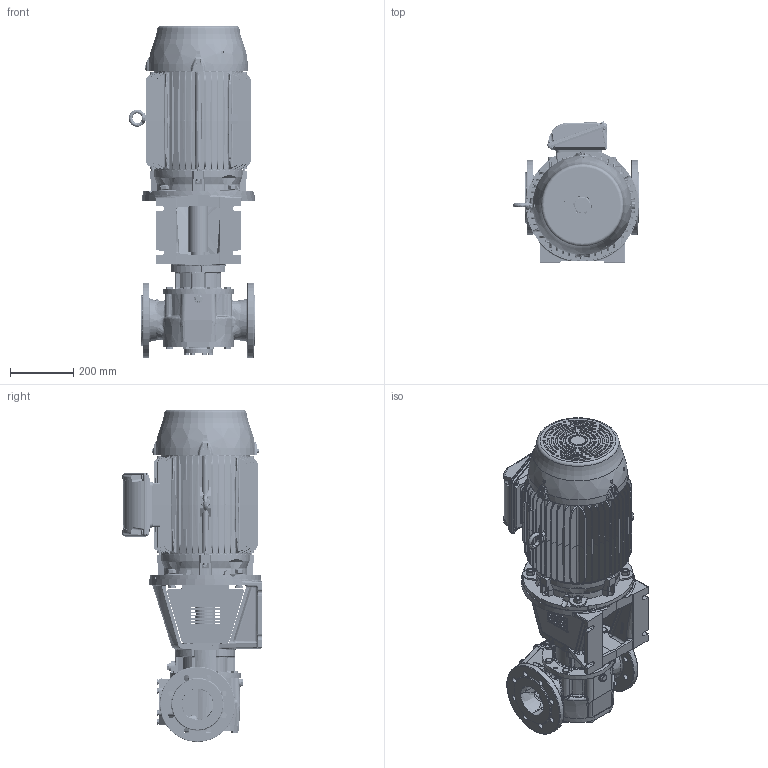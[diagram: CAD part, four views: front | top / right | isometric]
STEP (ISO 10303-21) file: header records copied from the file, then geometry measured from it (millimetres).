
FILE_DESCRIPTION(/* description */ (''),/* implementation_level */ '2;1');
FILE_NAME(/* name */ 'C:\V\JPP\Designs\GEAR PUMPS\PRODUCT ENGINEERING\EUROPE\TG BLOC\TG BLOC_86-100_R5_O_NRV-_160L-STEP.stp',/* time_stamp */ '2021-03-19T14:44:41+01:00',/* author */ ('A77THR'),/* organization */ (''),/* preprocessor_version */ 'ST-DEVELOPER v18.1',/* originating_system */ 'Autodesk Inventor 2020',/* authorisation */ '');
FILE_SCHEMA (('AUTOMOTIVE_DESIGN { 1 0 10303 214 3 1 1 }'));
Length unit declared in the file: millimetre
Products named in the file (1): TG BLOC_86-100_R5_O_NRV-_160L
Bounding box: 399.99 x 444.6 x 1048.4 mm (x, y, z)
Volume: 54440203.5 mm3; surface area: 2713805.6 mm2
Topology: 1 solids, 1 shells, 4876 faces, 12850 edges, 8123 vertices
Faces by surface type: plane 1965, cylinder 1072, bspline 1044, cone 607, torus 140, sphere 48
Full cylindrical faces by diameter (mm): 4 x1, 4.5 x8, 4.917 x8, 5 x4, 6.647 x1, 7 x4, 7.323 x6, 7.5 x3, 8 x19, 9 x8, 9.188 x8, 9.4 x1, 10 x16, 10.106 x7, 10.2 x2, 11 x8, 11.053 x4, 11.4 x6, 11.445 x2, 11.6 x7, 12 x4, 12.5 x3, 13 x5, 13.157 x2, 13.2 x2, 14 x8, 15.011 x2, 15.4 x8, 16 x1, 17.2 x20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
Entity records: 205492 total; most frequent: CARTESIAN_POINT 88168, ORIENTED_EDGE 25484, DIRECTION 21366, EDGE_CURVE 12742, AXIS2_PLACEMENT_3D 8269, VERTEX_POINT 8123, EDGE_LOOP 5287, FACE_OUTER_BOUND 4876
